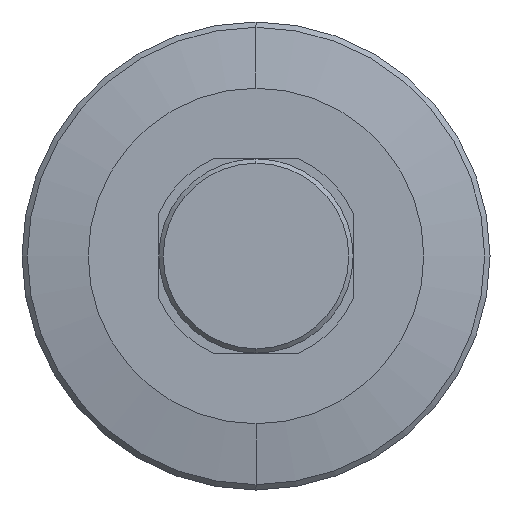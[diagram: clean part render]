
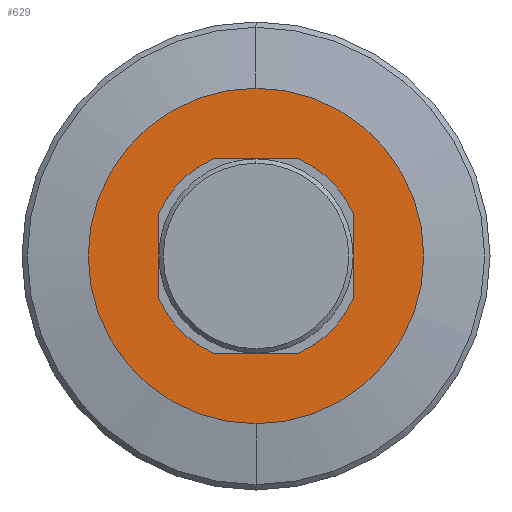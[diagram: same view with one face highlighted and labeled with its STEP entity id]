
A CAD part, left-side view. The second image highlights one B-rep face of the part: STEP entity #629.
In plain terms, the highlighted planar face has unit normal (-1, 0, 0).
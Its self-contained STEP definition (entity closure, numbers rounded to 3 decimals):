
#7 = CIRCLE ( 'NONE', #988, 12. ) ;
#10 = DIRECTION ( 'NONE',  ( -1., 0., 0. ) ) ;
#13 = CARTESIAN_POINT ( 'NONE',  ( 48., 11., -4.796 ) ) ;
#18 = DIRECTION ( 'NONE',  ( 0., 1., 0. ) ) ;
#40 = DIRECTION ( 'NONE',  ( 0., -1., 0. ) ) ;
#47 = DIRECTION ( 'NONE',  ( -1., 0., 0. ) ) ;
#49 = CIRCLE ( 'NONE', #548, 12. ) ;
#72 = CARTESIAN_POINT ( 'NONE',  ( 48., -4.796, -11. ) ) ;
#102 = AXIS2_PLACEMENT_3D ( 'NONE', #426, #1180, #530 ) ;
#130 = AXIS2_PLACEMENT_3D ( 'NONE', #642, #10, #753 ) ;
#136 = EDGE_CURVE ( 'NONE', #1135, #844, #1022, .T. ) ;
#140 = DIRECTION ( 'NONE',  ( -1., 0., 0. ) ) ;
#141 = CARTESIAN_POINT ( 'NONE',  ( 48., -11., -4.796 ) ) ;
#153 = ORIENTED_EDGE ( 'NONE', *, *, #845, .F. ) ;
#171 = VERTEX_POINT ( 'NONE', #863 ) ;
#173 = VECTOR ( 'NONE', #18, 1000. ) ;
#185 = CARTESIAN_POINT ( 'NONE',  ( 48., 11., 0. ) ) ;
#219 = VERTEX_POINT ( 'NONE', #656 ) ;
#233 = FACE_BOUND ( 'NONE', #417, .T. ) ;
#261 = DIRECTION ( 'NONE',  ( -1., 0., 0. ) ) ;
#277 = CIRCLE ( 'NONE', #130, 12. ) ;
#281 = EDGE_CURVE ( 'NONE', #844, #1203, #881, .T. ) ;
#303 = CARTESIAN_POINT ( 'NONE',  ( 48., 0., 0. ) ) ;
#325 = ORIENTED_EDGE ( 'NONE', *, *, #729, .T. ) ;
#351 = CARTESIAN_POINT ( 'NONE',  ( 48., 19., -11. ) ) ;
#389 = CARTESIAN_POINT ( 'NONE',  ( 48., 19., 0. ) ) ;
#390 = VECTOR ( 'NONE', #877, 1000. ) ;
#401 = DIRECTION ( 'NONE',  ( 0., 0., 1. ) ) ;
#417 = EDGE_LOOP ( 'NONE', ( #969, #423, #153, #608, #562, #518, #814, #1308 ) ) ;
#423 = ORIENTED_EDGE ( 'NONE', *, *, #995, .F. ) ;
#425 = CARTESIAN_POINT ( 'NONE',  ( 48., 4.796, 11. ) ) ;
#426 = CARTESIAN_POINT ( 'NONE',  ( 48., 0., 0. ) ) ;
#518 = ORIENTED_EDGE ( 'NONE', *, *, #136, .F. ) ;
#530 = DIRECTION ( 'NONE',  ( 0., 0., 1. ) ) ;
#548 = AXIS2_PLACEMENT_3D ( 'NONE', #674, #47, #785 ) ;
#560 = VERTEX_POINT ( 'NONE', #1116 ) ;
#562 = ORIENTED_EDGE ( 'NONE', *, *, #281, .F. ) ;
#600 = VERTEX_POINT ( 'NONE', #72 ) ;
#603 = DIRECTION ( 'NONE',  ( 1., 0., 0. ) ) ;
#605 = VECTOR ( 'NONE', #40, 1000. ) ;
#608 = ORIENTED_EDGE ( 'NONE', *, *, #631, .F. ) ;
#629 = ADVANCED_FACE ( 'NONE', ( #723, #233 ), #703, .F. ) ;
#631 = EDGE_CURVE ( 'NONE', #1203, #1156, #1266, .T. ) ;
#642 = CARTESIAN_POINT ( 'NONE',  ( 48., 0., 0. ) ) ;
#656 = CARTESIAN_POINT ( 'NONE',  ( 48., 0., 19. ) ) ;
#670 = LINE ( 'NONE', #351, #605 ) ;
#674 = CARTESIAN_POINT ( 'NONE',  ( 48., 0., 0. ) ) ;
#703 = PLANE ( 'NONE',  #792 ) ;
#723 = FACE_OUTER_BOUND ( 'NONE', #816, .T. ) ;
#729 = EDGE_CURVE ( 'NONE', #219, #967, #1132, .T. ) ;
#747 = CARTESIAN_POINT ( 'NONE',  ( 48., -4.796, 11. ) ) ;
#753 = DIRECTION ( 'NONE',  ( 0., 0., 1. ) ) ;
#763 = CARTESIAN_POINT ( 'NONE',  ( 48., 11., 4.796 ) ) ;
#766 = CARTESIAN_POINT ( 'NONE',  ( 48., -11., 0. ) ) ;
#774 = CARTESIAN_POINT ( 'NONE',  ( 48., 0., 0. ) ) ;
#785 = DIRECTION ( 'NONE',  ( 0., 0., 1. ) ) ;
#792 = AXIS2_PLACEMENT_3D ( 'NONE', #389, #603, #1352 ) ;
#794 = CIRCLE ( 'NONE', #102, 19. ) ;
#814 = ORIENTED_EDGE ( 'NONE', *, *, #1027, .F. ) ;
#816 = EDGE_LOOP ( 'NONE', ( #832, #325 ) ) ;
#832 = ORIENTED_EDGE ( 'NONE', *, *, #1138, .T. ) ;
#844 = VERTEX_POINT ( 'NONE', #425 ) ;
#845 = EDGE_CURVE ( 'NONE', #1156, #560, #277, .T. ) ;
#863 = CARTESIAN_POINT ( 'NONE',  ( 48., -11., 4.796 ) ) ;
#877 = DIRECTION ( 'NONE',  ( 0., 0., 1. ) ) ;
#881 = CIRCLE ( 'NONE', #1272, 12. ) ;
#886 = DIRECTION ( 'NONE',  ( 0., 0., 1. ) ) ;
#901 = CARTESIAN_POINT ( 'NONE',  ( 48., 0., 0. ) ) ;
#926 = DIRECTION ( 'NONE',  ( 0., 0., -1. ) ) ;
#947 = EDGE_CURVE ( 'NONE', #999, #171, #957, .T. ) ;
#957 = LINE ( 'NONE', #766, #390 ) ;
#967 = VERTEX_POINT ( 'NONE', #991 ) ;
#969 = ORIENTED_EDGE ( 'NONE', *, *, #1064, .F. ) ;
#988 = AXIS2_PLACEMENT_3D ( 'NONE', #901, #261, #1008 ) ;
#991 = CARTESIAN_POINT ( 'NONE',  ( 48., 0., -19. ) ) ;
#995 = EDGE_CURVE ( 'NONE', #560, #600, #670, .T. ) ;
#999 = VERTEX_POINT ( 'NONE', #141 ) ;
#1008 = DIRECTION ( 'NONE',  ( 0., 0., 1. ) ) ;
#1022 = LINE ( 'NONE', #1294, #173 ) ;
#1027 = EDGE_CURVE ( 'NONE', #171, #1135, #49, .T. ) ;
#1052 = DIRECTION ( 'NONE',  ( -1., 0., 0. ) ) ;
#1064 = EDGE_CURVE ( 'NONE', #600, #999, #7, .T. ) ;
#1116 = CARTESIAN_POINT ( 'NONE',  ( 48., 4.796, -11. ) ) ;
#1132 = CIRCLE ( 'NONE', #1222, 19. ) ;
#1135 = VERTEX_POINT ( 'NONE', #747 ) ;
#1138 = EDGE_CURVE ( 'NONE', #967, #219, #794, .T. ) ;
#1156 = VERTEX_POINT ( 'NONE', #13 ) ;
#1180 = DIRECTION ( 'NONE',  ( -1., 0., 0. ) ) ;
#1203 = VERTEX_POINT ( 'NONE', #763 ) ;
#1222 = AXIS2_PLACEMENT_3D ( 'NONE', #303, #1052, #401 ) ;
#1266 = LINE ( 'NONE', #185, #1299 ) ;
#1272 = AXIS2_PLACEMENT_3D ( 'NONE', #774, #140, #886 ) ;
#1294 = CARTESIAN_POINT ( 'NONE',  ( 48., 19., 11. ) ) ;
#1299 = VECTOR ( 'NONE', #926, 1000. ) ;
#1308 = ORIENTED_EDGE ( 'NONE', *, *, #947, .F. ) ;
#1352 = DIRECTION ( 'NONE',  ( 0., 0., -1. ) ) ;
